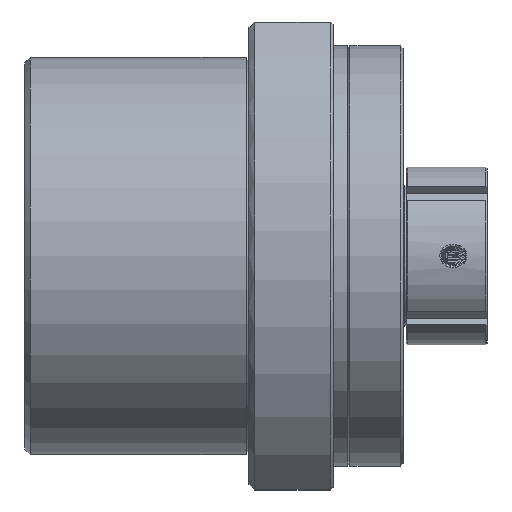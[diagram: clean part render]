
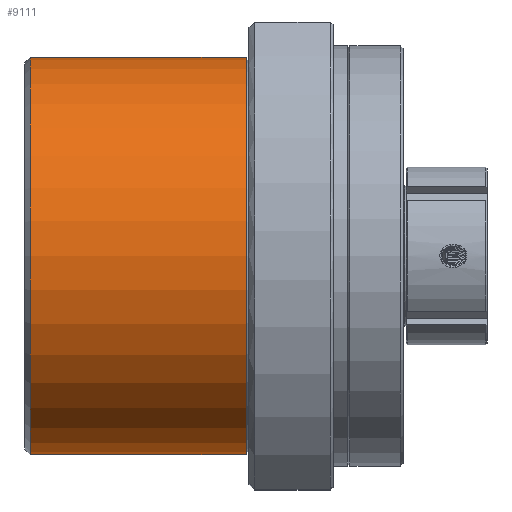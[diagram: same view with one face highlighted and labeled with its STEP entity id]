
A CAD part, top view. The second image highlights one B-rep face of the part: STEP entity #9111.
In plain terms, the highlighted cylindrical face has radius 42.5 mm (diameter 85 mm), a full revolution.
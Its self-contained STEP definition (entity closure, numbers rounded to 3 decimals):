
#4243=EDGE_CURVE('',#11538,#11538,#11539,.T.);
#7413=EDGE_CURVE('',#16519,#16519,#16520,.T.);
#9111=ADVANCED_FACE('',(#18930,#18931),#18932,.T.);
#11538=VERTEX_POINT('',#22895);
#11539=CIRCLE('',#22896,42.5);
#16519=VERTEX_POINT('',#32390);
#16520=CIRCLE('',#32391,42.5);
#18930=FACE_OUTER_BOUND('',#37017,.T.);
#18931=FACE_OUTER_BOUND('',#37018,.T.);
#18932=CYLINDRICAL_SURFACE('',#37019,42.5);
#22895=CARTESIAN_POINT('',(1.2,0.0,42.5));
#22896=AXIS2_PLACEMENT_3D('',#40681,#40682,#40683);
#32390=CARTESIAN_POINT('',(47.4,0.0,42.5));
#32391=AXIS2_PLACEMENT_3D('',#46594,#46595,#46596);
#37017=EDGE_LOOP('',(#49925));
#37018=EDGE_LOOP('',(#49926));
#37019=AXIS2_PLACEMENT_3D('',#49927,#49928,#49929);
#40681=CARTESIAN_POINT('',(1.2,0.0,0.0));
#40682=DIRECTION('',(1.0,0.0,-0.0));
#40683=DIRECTION('',(0.0,0.0,1.0));
#46594=CARTESIAN_POINT('',(47.4,0.0,0.0));
#46595=DIRECTION('',(1.0,0.0,-0.0));
#46596=DIRECTION('',(0.0,0.0,1.0));
#49925=ORIENTED_EDGE('',*,*,#4243,.T.);
#49926=ORIENTED_EDGE('',*,*,#7413,.F.);
#49927=CARTESIAN_POINT('',(24.3,0.0,0.0));
#49928=DIRECTION('',(-1.0,0.0,0.0));
#49929=DIRECTION('',(0.0,0.0,1.0));
